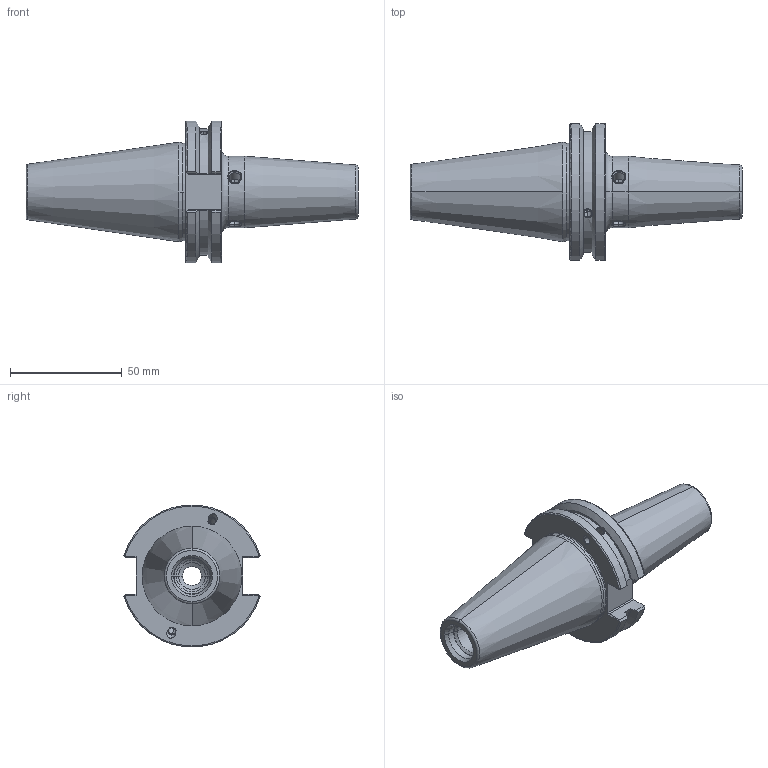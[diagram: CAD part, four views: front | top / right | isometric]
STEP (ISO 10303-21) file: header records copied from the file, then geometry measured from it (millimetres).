
FILE_DESCRIPTION((''),'2;1');
FILE_NAME('CAT40ADB-SFH12_7C-80','2020-09-02T08:27:30',('ssktool'),(''),'CREO PARAMETRIC BY PTC INC, 2018100','CREO PARAMETRIC BY PTC INC, 2018100','');
FILE_SCHEMA(('CONFIG_CONTROL_DESIGN'));
Length unit declared in the file: millimetre
Products named in the file (1): CAT40ADB-SFH12_7C-80
Bounding box: 148.25 x 60.84 x 63.27 mm (x, y, z)
Volume: 131425.8 mm3; surface area: 32374.3 mm2
Topology: 1 solids, 10 shells, 206 faces, 556 edges, 351 vertices
Faces by surface type: cylinder 80, plane 52, cone 36, bspline 20, torus 18
Entity records: 7813 total; most frequent: CARTESIAN_POINT 2875, ORIENTED_EDGE 1020, DIRECTION 962, EDGE_CURVE 542, AXIS2_PLACEMENT_3D 379, VERTEX_POINT 351, EDGE_LOOP 233, FACE_OUTER_BOUND 206
